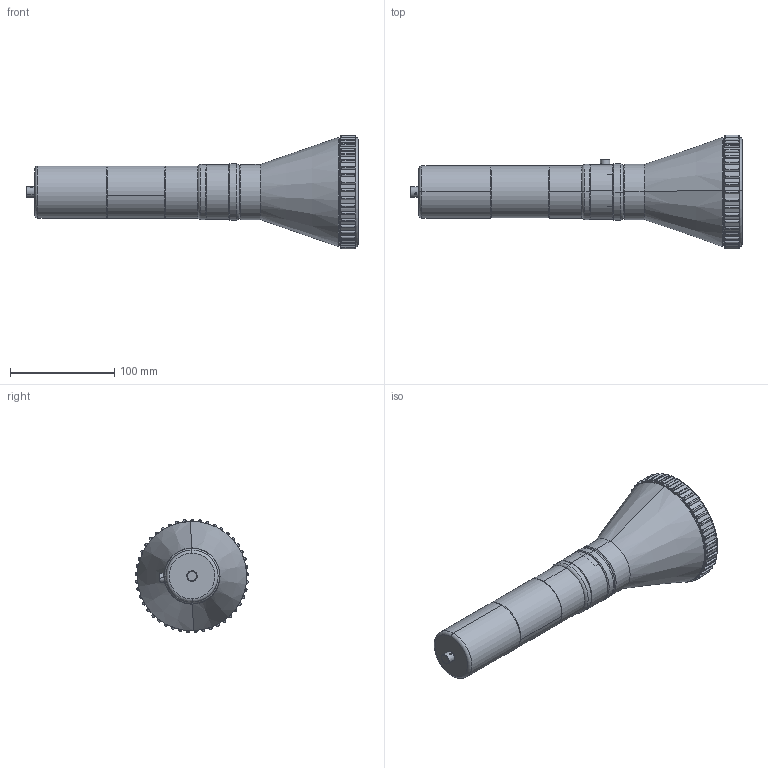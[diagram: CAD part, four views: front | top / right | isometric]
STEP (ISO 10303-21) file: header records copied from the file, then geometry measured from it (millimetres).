
FILE_DESCRIPTION (( 'STEP AP214' ), '1' );
FILE_NAME ('AGTABANCASI.STEP', '2019-04-09T09:45:37', ( '' ), ( '' ), 'SwSTEP 2.0', 'SolidWorks 2018', '' );
FILE_SCHEMA (( 'AUTOMOTIVE_DESIGN' ));
Length unit declared in the file: millimetre
Products named in the file (28): contalýkare - vidalý; KO-37X3; tetik_yayý2; karelerin_pimi; arka_t黳; SWÝTCH_TEK_PARCA; arkaparça_2; butonaltpimi; kursun; buton; conta-disli; ara_parca; KO-38X3; KO-98X2; içaltpabuc_1; AGTABANCASI; ON-KAGIT; KARE_GOVDE; cap_3_yarikli_pim; ON-KAPAK; ARKA-KAPAK; içaltpabuc_2; baslik-1; kartus-yataklama-plastik; plastýk_tapa; C02kartus-1; arka_kapak_aský_prc; on-off-bilezik
Assembly tree (31 placements, depth 3):
  AGTABANCASI
    arka_t黳
    baslik-1
    ON-KAPAK
    ON-KAGIT
    ARKA-KAPAK
    C02kartus-1
    kartus-yataklama-plastik
    KO-37X3
    KO-38X3
    KO-98X2
    arka_kapak_aský_prc
    kursun  x4
    ara_parca
    SWÝTCH_TEK_PARCA
      KARE_GOVDE
      arkaparça_2
      butonaltpimi
      on-off-bilezik
      buton
      tetik_yayý2
      cap_3_yarikli_pim  x2
      içaltpabuc_1
      içaltpabuc_2
      karelerin_pimi
      contalýkare - vidalý
      conta-disli
    plastýk_tapa
Bounding box: 319 x 108.93 x 108.88 mm (x, y, z)
Volume: 542085.9 mm3; surface area: 264921.1 mm2
Topology: 76 solids, 76 shells, 1278 faces, 2870 edges, 1778 vertices
Faces by surface type: cylinder 569, plane 506, cone 138, bspline 35, torus 30
Entity records: 43080 total; most frequent: CARTESIAN_POINT 14286, DIRECTION 5452, ORIENTED_EDGE 5404, EDGE_CURVE 2702, AXIS2_PLACEMENT_3D 2064, VERTEX_POINT 1672, EDGE_LOOP 1356, LINE 1324
